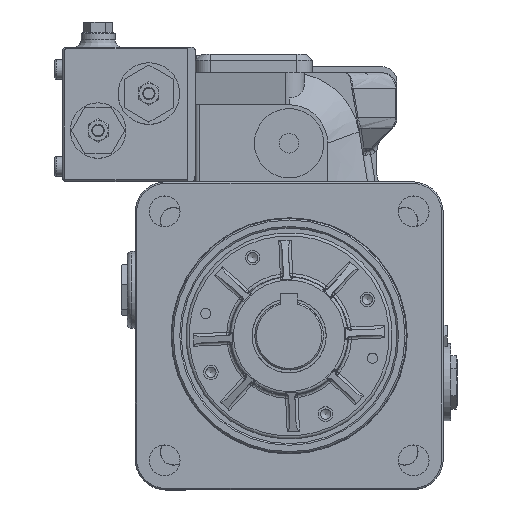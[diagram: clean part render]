
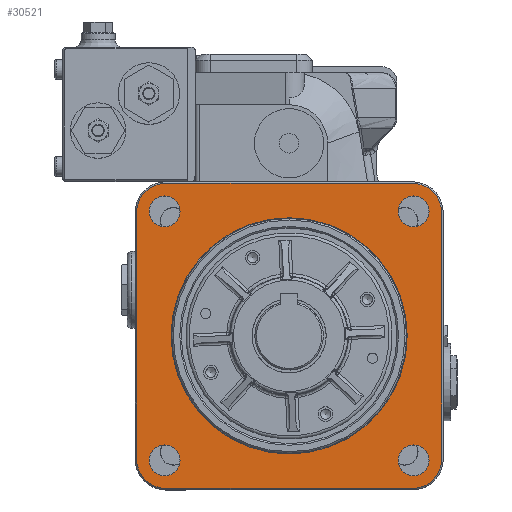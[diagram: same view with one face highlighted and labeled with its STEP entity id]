
A CAD part, top view. The second image highlights one B-rep face of the part: STEP entity #30521.
In plain terms, the highlighted planar face has unit normal (0, 0, 1).
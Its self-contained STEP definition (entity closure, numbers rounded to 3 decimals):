
#22785=CARTESIAN_POINT('',(90.8,-80.8,23.));
#22786=VERTEX_POINT('',#22785);
#22787=CARTESIAN_POINT('',(80.8,-80.8,23.));
#22788=DIRECTION('',(0.0,0.0,-1.0));
#22789=DIRECTION('',(-1.0,0.0,0.0));
#22790=AXIS2_PLACEMENT_3D('',#22787,#22788,#22789);
#22791=CIRCLE('',#22790,10.0);
#22792=EDGE_CURVE('',#22786,#22786,#22791,.T.);
#22813=CARTESIAN_POINT('',(-70.8,80.8,23.));
#22814=VERTEX_POINT('',#22813);
#22815=CARTESIAN_POINT('',(-80.8,80.8,23.));
#22816=DIRECTION('',(0.0,0.0,-1.0));
#22817=DIRECTION('',(-1.0,0.0,0.0));
#22818=AXIS2_PLACEMENT_3D('',#22815,#22816,#22817);
#22819=CIRCLE('',#22818,10.0);
#22820=EDGE_CURVE('',#22814,#22814,#22819,.T.);
#22841=CARTESIAN_POINT('',(90.8,80.8,23.));
#22842=VERTEX_POINT('',#22841);
#22843=CARTESIAN_POINT('',(80.8,80.8,23.));
#22844=DIRECTION('',(0.0,0.0,-1.0));
#22845=DIRECTION('',(-1.0,0.0,0.0));
#22846=AXIS2_PLACEMENT_3D('',#22843,#22844,#22845);
#22847=CIRCLE('',#22846,10.0);
#22848=EDGE_CURVE('',#22842,#22842,#22847,.T.);
#22869=CARTESIAN_POINT('',(-70.8,-80.8,23.));
#22870=VERTEX_POINT('',#22869);
#22871=CARTESIAN_POINT('',(-80.8,-80.8,23.));
#22872=DIRECTION('',(0.0,0.0,-1.0));
#22873=DIRECTION('',(-1.0,0.0,0.0));
#22874=AXIS2_PLACEMENT_3D('',#22871,#22872,#22873);
#22875=CIRCLE('',#22874,10.0);
#22876=EDGE_CURVE('',#22870,#22870,#22875,.T.);
#30190=CARTESIAN_POINT('',(-80.,99.,23.));
#30191=VERTEX_POINT('',#30190);
#30198=CARTESIAN_POINT('',(80.,99.,23.));
#30199=VERTEX_POINT('',#30198);
#30200=CARTESIAN_POINT('',(-80.,99.,23.));
#30201=DIRECTION('',(1.0,0.0,0.0));
#30202=VECTOR('',#30201,160.0);
#30203=LINE('',#30200,#30202);
#30204=EDGE_CURVE('',#30191,#30199,#30203,.T.);
#30223=CARTESIAN_POINT('',(-99.,80.,23.));
#30224=VERTEX_POINT('',#30223);
#30231=CARTESIAN_POINT('',(-80.,80.,23.));
#30232=DIRECTION('',(0.0,0.0,-1.0));
#30233=DIRECTION('',(0.0,1.0,0.0));
#30234=AXIS2_PLACEMENT_3D('',#30231,#30232,#30233);
#30235=CIRCLE('',#30234,19.0);
#30236=EDGE_CURVE('',#30224,#30191,#30235,.T.);
#30254=CARTESIAN_POINT('',(99.,80.,23.));
#30255=VERTEX_POINT('',#30254);
#30272=CARTESIAN_POINT('',(80.,80.,23.));
#30273=DIRECTION('',(0.0,0.0,-1.0));
#30274=DIRECTION('',(1.0,0.0,0.0));
#30275=AXIS2_PLACEMENT_3D('',#30272,#30273,#30274);
#30276=CIRCLE('',#30275,19.0);
#30277=EDGE_CURVE('',#30199,#30255,#30276,.T.);
#30289=CARTESIAN_POINT('',(-99.,-80.,23.));
#30290=VERTEX_POINT('',#30289);
#30297=CARTESIAN_POINT('',(-99.,-80.,23.));
#30298=DIRECTION('',(0.0,1.0,0.0));
#30299=VECTOR('',#30298,160.0);
#30300=LINE('',#30297,#30299);
#30301=EDGE_CURVE('',#30290,#30224,#30300,.T.);
#30318=CARTESIAN_POINT('',(99.,-80.,23.));
#30319=VERTEX_POINT('',#30318);
#30335=CARTESIAN_POINT('',(99.,80.,23.));
#30336=DIRECTION('',(0.0,-1.0,0.0));
#30337=VECTOR('',#30336,160.0);
#30338=LINE('',#30335,#30337);
#30339=EDGE_CURVE('',#30255,#30319,#30338,.T.);
#30351=CARTESIAN_POINT('',(-80.,-99.,23.));
#30352=VERTEX_POINT('',#30351);
#30359=CARTESIAN_POINT('',(-80.,-80.,23.));
#30360=DIRECTION('',(0.0,0.0,-1.0));
#30361=DIRECTION('',(-1.0,0.0,0.0));
#30362=AXIS2_PLACEMENT_3D('',#30359,#30360,#30361);
#30363=CIRCLE('',#30362,19.);
#30364=EDGE_CURVE('',#30352,#30290,#30363,.T.);
#30382=CARTESIAN_POINT('',(80.,-99.,23.));
#30383=VERTEX_POINT('',#30382);
#30400=CARTESIAN_POINT('',(80.,-80.,23.));
#30401=DIRECTION('',(0.0,0.0,-1.0));
#30402=DIRECTION('',(0.0,-1.0,0.0));
#30403=AXIS2_PLACEMENT_3D('',#30400,#30401,#30402);
#30404=CIRCLE('',#30403,19.);
#30405=EDGE_CURVE('',#30319,#30383,#30404,.T.);
#30423=CARTESIAN_POINT('',(80.,-99.,23.));
#30424=DIRECTION('',(-1.0,0.0,0.0));
#30425=VECTOR('',#30424,160.);
#30426=LINE('',#30423,#30425);
#30427=EDGE_CURVE('',#30383,#30352,#30426,.T.);
#30483=CARTESIAN_POINT('',(0.,0.,23.));
#30484=DIRECTION('',(0.0,0.0,1.0));
#30485=DIRECTION('',(1.0,0.0,0.0));
#30486=AXIS2_PLACEMENT_3D('',#30483,#30484,#30485);
#30487=PLANE('',#30486);
#30488=ORIENTED_EDGE('',*,*,#30204,.F.);
#30489=ORIENTED_EDGE('',*,*,#30236,.F.);
#30490=ORIENTED_EDGE('',*,*,#30301,.F.);
#30491=ORIENTED_EDGE('',*,*,#30364,.F.);
#30492=ORIENTED_EDGE('',*,*,#30427,.F.);
#30493=ORIENTED_EDGE('',*,*,#30405,.F.);
#30494=ORIENTED_EDGE('',*,*,#30339,.F.);
#30495=ORIENTED_EDGE('',*,*,#30277,.F.);
#30496=EDGE_LOOP('',(#30488,#30489,#30490,#30491,#30492,#30493,#30494,#30495));
#30497=FACE_OUTER_BOUND('',#30496,.T.);
#30498=ORIENTED_EDGE('',*,*,#22792,.T.);
#30499=EDGE_LOOP('',(#30498));
#30500=FACE_BOUND('',#30499,.T.);
#30501=ORIENTED_EDGE('',*,*,#22820,.T.);
#30502=EDGE_LOOP('',(#30501));
#30503=FACE_BOUND('',#30502,.T.);
#30504=ORIENTED_EDGE('',*,*,#22848,.T.);
#30505=EDGE_LOOP('',(#30504));
#30506=FACE_BOUND('',#30505,.T.);
#30507=ORIENTED_EDGE('',*,*,#22876,.T.);
#30508=EDGE_LOOP('',(#30507));
#30509=FACE_BOUND('',#30508,.T.);
#30510=CARTESIAN_POINT('',(76.6,0.,23.));
#30511=VERTEX_POINT('',#30510);
#30512=CARTESIAN_POINT('',(0.,0.,23.));
#30513=DIRECTION('',(0.0,0.0,1.0));
#30514=DIRECTION('',(-1.0,0.0,0.0));
#30515=AXIS2_PLACEMENT_3D('',#30512,#30513,#30514);
#30516=CIRCLE('',#30515,76.6);
#30517=EDGE_CURVE('',#30511,#30511,#30516,.T.);
#30518=ORIENTED_EDGE('',*,*,#30517,.F.);
#30519=EDGE_LOOP('',(#30518));
#30520=FACE_BOUND('',#30519,.T.);
#30521=ADVANCED_FACE('',(#30497,#30500,#30503,#30506,#30509,#30520),#30487,.T.);
